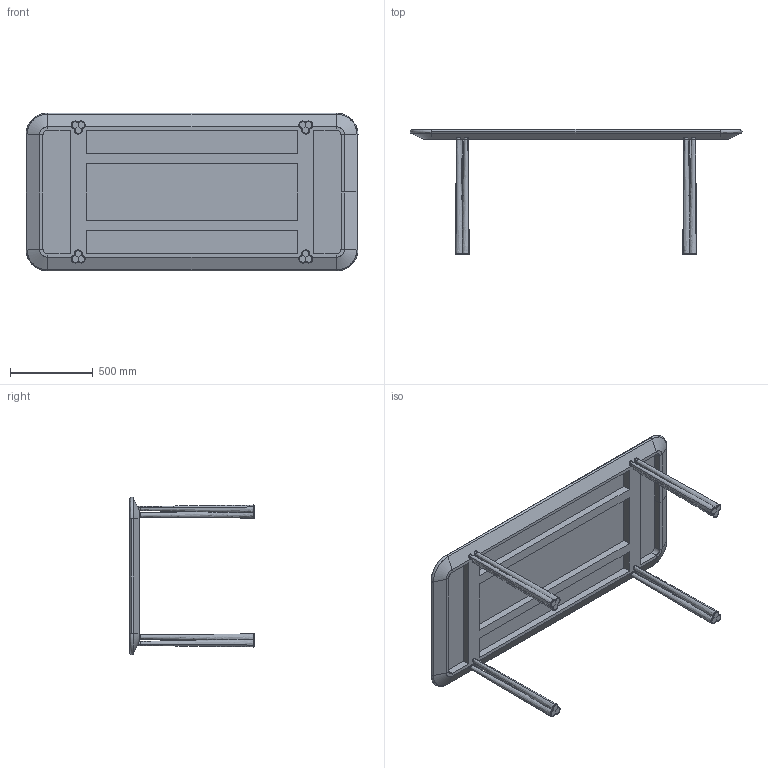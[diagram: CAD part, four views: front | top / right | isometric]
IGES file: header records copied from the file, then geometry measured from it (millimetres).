
Start section: SolidWorks IGES file using analytic representation for surfaces
Global section: file name: E:\Box Sync\Jason Miller\056 Rectangular Elliot Dining Table\sales related\SW\056S Rectangular Elliot Dining Table\056S Rectangular Elliot Dining Table.IGS; native system: SolidWorks 2016; preprocessor: SolidWorks 2016; author: Kumagai; date: 181024.105155; units: millimetre
Bounding box: 2000 x 753.5 x 950 mm (x, y, z)
Surface area: 5459589.5 mm2 (no closed solid volume)
Topology: 0 solids, 0 shells, 253 faces, 5318 edges, 5318 vertices
Faces by surface type: bspline 177, revolution 76
